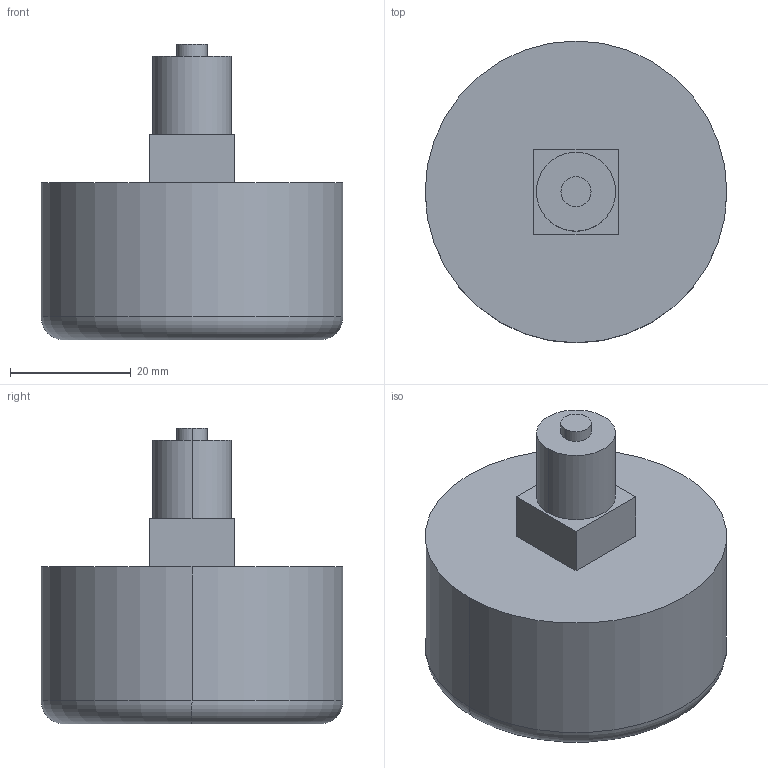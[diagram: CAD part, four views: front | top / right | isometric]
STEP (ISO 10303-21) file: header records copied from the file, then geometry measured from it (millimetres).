
FILE_DESCRIPTION (( 'STEP AP214' ), '1' );
FILE_NAME ('85060211.STEP', '2022-12-01T10:44:35', ( '' ), ( '' ), 'SwSTEP 2.0', 'SolidWorks 2022', '' );
FILE_SCHEMA (( 'AUTOMOTIVE_DESIGN' ));
Length unit declared in the file: millimetre
Products named in the file (1): 85060211
Bounding box: 50 x 50 x 49 mm (x, y, z)
Volume: 53940.1 mm3; surface area: 8762.9 mm2
Topology: 1 solids, 1 shells, 17 faces, 34 edges, 22 vertices
Faces by surface type: plane 9, cylinder 6, torus 2
Entity records: 482 total; most frequent: DIRECTION 86, CARTESIAN_POINT 74, ORIENTED_EDGE 68, EDGE_CURVE 34, AXIS2_PLACEMENT_3D 34, VERTEX_POINT 22, EDGE_LOOP 20, VECTOR 18
